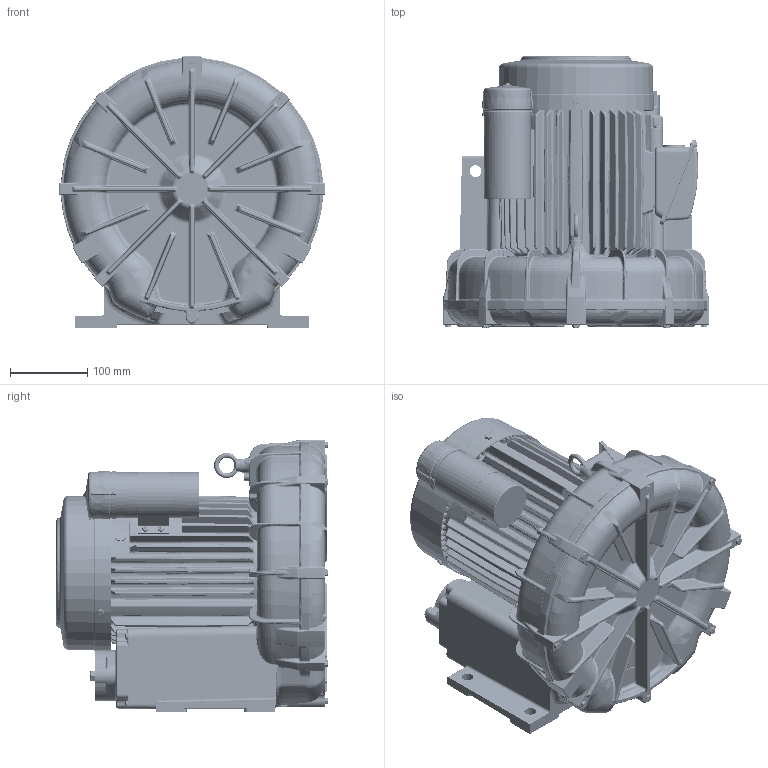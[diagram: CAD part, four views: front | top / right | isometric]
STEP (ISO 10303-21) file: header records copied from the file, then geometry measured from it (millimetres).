
FILE_DESCRIPTION(/* description */ (''),/* implementation_level */ '2;1');
FILE_NAME(/* name */ 'Y:\鼓風機\鼓風機組合\\X2\591689C07D445408\X0\\VFC508P-2T.stp',/* time_stamp */ '2018-02-07T09:52:06+08:00',/* author */ ('daniel'),/* organization */ (''),/* preprocessor_version */ 'ST-DEVELOPER v16.1',/* originating_system */ 'Autodesk Inventor 2016',/* authorisation */ '');
FILE_SCHEMA (('AUTOMOTIVE_DESIGN { 1 0 10303 214 3 1 1 }'));
Length unit declared in the file: millimetre
Products named in the file (1): VFC508P-2T_尺寸量測
Bounding box: 343.98 x 350.8 x 351.96 mm (x, y, z)
Volume: 17120972.5 mm3; surface area: 993926.2 mm2
Topology: 1 solids, 1 shells, 6600 faces, 15999 edges, 9019 vertices
Faces by surface type: bspline 2968, plane 1079, cylinder 1037, torus 798, cone 471, sphere 247
Full cylindrical faces by diameter (mm): 3.571 x2, 4 x3, 4.5 x1, 7.2 x3, 15 x1, 27 x1, 28.2 x1, 44.845 x2, 60 x1, 66 x1, 200 x1, 202 x1
Entity records: 299601 total; most frequent: CARTESIAN_POINT 160969, ORIENTED_EDGE 30830, DIRECTION 23049, EDGE_CURVE 15409, AXIS2_PLACEMENT_3D 10185, VERTEX_POINT 8954, EDGE_LOOP 6809, FACE_OUTER_BOUND 6600
